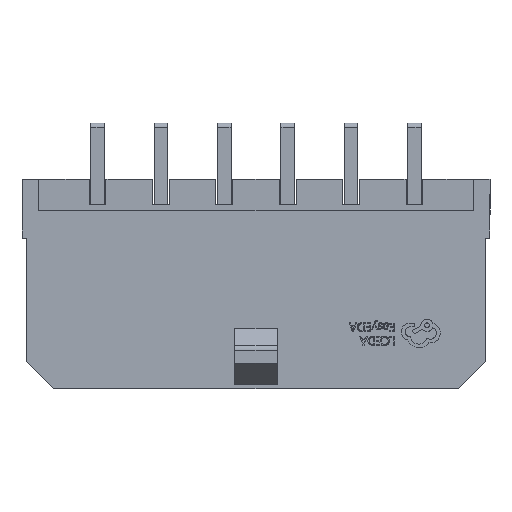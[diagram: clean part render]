
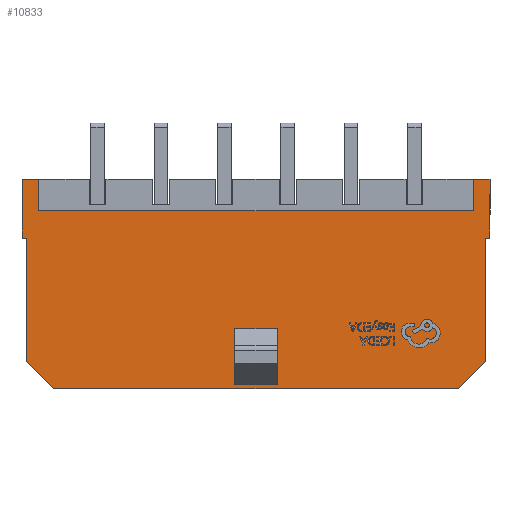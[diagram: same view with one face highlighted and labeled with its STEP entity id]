
A CAD part, top view. The second image highlights one B-rep face of the part: STEP entity #10833.
In plain terms, the highlighted planar face has unit normal (0, 0, 1).
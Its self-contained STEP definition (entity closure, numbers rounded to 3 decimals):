
#43 = CARTESIAN_POINT ( 'NONE',  ( -11.075, -0.84, 7.37 ) ) ;
#118 = EDGE_CURVE ( 'NONE', #6407, #675, #26652, .T. ) ;
#176 = ORIENTED_EDGE ( 'NONE', *, *, #29649, .T. ) ;
#324 = DIRECTION ( 'NONE',  ( 0., -1., 0. ) ) ;
#618 = VERTEX_POINT ( 'NONE', #10293 ) ;
#675 = VERTEX_POINT ( 'NONE', #15475 ) ;
#1292 = VERTEX_POINT ( 'NONE', #12480 ) ;
#1335 = DIRECTION ( 'NONE',  ( -0.707, 0.707, 0. ) ) ;
#1980 = CARTESIAN_POINT ( 'NONE',  ( -10.875, -3.626, 7.37 ) ) ;
#2347 = VECTOR ( 'NONE', #14735, 1000. ) ;
#2376 = CARTESIAN_POINT ( 'NONE',  ( 11.075, -3.626, 7.37 ) ) ;
#2509 = ORIENTED_EDGE ( 'NONE', *, *, #5179, .T. ) ;
#2774 = VECTOR ( 'NONE', #28799, 1000. ) ;
#3605 = LINE ( 'NONE', #19732, #23234 ) ;
#3717 = ORIENTED_EDGE ( 'NONE', *, *, #29917, .F. ) ;
#4139 = VECTOR ( 'NONE', #5601, 1000. ) ;
#4153 = ORIENTED_EDGE ( 'NONE', *, *, #118, .T. ) ;
#4286 = VECTOR ( 'NONE', #7915, 1000. ) ;
#4304 = CARTESIAN_POINT ( 'NONE',  ( 10.275, -0.84, 7.37 ) ) ;
#4341 = VERTEX_POINT ( 'NONE', #28847 ) ;
#4480 = EDGE_CURVE ( 'NONE', #6134, #24071, #20135, .T. ) ;
#4513 = VERTEX_POINT ( 'NONE', #29437 ) ;
#4612 = ORIENTED_EDGE ( 'NONE', *, *, #4480, .F. ) ;
#4647 = DIRECTION ( 'NONE',  ( 0., 0., 1. ) ) ;
#5179 = EDGE_CURVE ( 'NONE', #16815, #1292, #28009, .T. ) ;
#5397 = VERTEX_POINT ( 'NONE', #27819 ) ;
#5531 = CARTESIAN_POINT ( 'NONE',  ( 10.275, -0.84, 7.37 ) ) ;
#5601 = DIRECTION ( 'NONE',  ( -1., 0., 0. ) ) ;
#5656 = ORIENTED_EDGE ( 'NONE', *, *, #21521, .F. ) ;
#5662 = ORIENTED_EDGE ( 'NONE', *, *, #16646, .F. ) ;
#5806 = DIRECTION ( 'NONE',  ( 1., 0., 0. ) ) ;
#5871 = EDGE_CURVE ( 'NONE', #16815, #11512, #21002, .T. ) ;
#6060 = CARTESIAN_POINT ( 'NONE',  ( -11.075, -0.84, 7.37 ) ) ;
#6134 = VERTEX_POINT ( 'NONE', #1980 ) ;
#6407 = VERTEX_POINT ( 'NONE', #16713 ) ;
#7112 = ORIENTED_EDGE ( 'NONE', *, *, #18528, .F. ) ;
#7143 = DIRECTION ( 'NONE',  ( 0., 1., 0. ) ) ;
#7394 = EDGE_CURVE ( 'NONE', #5397, #618, #11208, .T. ) ;
#7426 = CARTESIAN_POINT ( 'NONE',  ( 1., -10.571, 7.37 ) ) ;
#7440 = CARTESIAN_POINT ( 'NONE',  ( -1., -10.571, 7.37 ) ) ;
#7441 = LINE ( 'NONE', #21001, #22844 ) ;
#7915 = DIRECTION ( 'NONE',  ( -1., 0., 0. ) ) ;
#8220 = ORIENTED_EDGE ( 'NONE', *, *, #5871, .F. ) ;
#8343 = DIRECTION ( 'NONE',  ( 0., 1., 0. ) ) ;
#9412 = DIRECTION ( 'NONE',  ( 0., -1., 0. ) ) ;
#9457 = VECTOR ( 'NONE', #324, 1000. ) ;
#9570 = CARTESIAN_POINT ( 'NONE',  ( 10.875, -3.626, 7.37 ) ) ;
#10072 = ORIENTED_EDGE ( 'NONE', *, *, #26714, .T. ) ;
#10293 = CARTESIAN_POINT ( 'NONE',  ( 10.275, -2.34, 7.37 ) ) ;
#10310 = LINE ( 'NONE', #6060, #4139 ) ;
#10436 = CARTESIAN_POINT ( 'NONE',  ( -10.875, -9.45, 7.37 ) ) ;
#10755 = DIRECTION ( 'NONE',  ( 0., -1., 0. ) ) ;
#10833 = ADVANCED_FACE ( 'NONE', ( #18518, #27783 ), #16355, .T. ) ;
#11078 = LINE ( 'NONE', #18255, #16826 ) ;
#11208 = LINE ( 'NONE', #20500, #19566 ) ;
#11511 = DIRECTION ( 'NONE',  ( 1., 0., 0. ) ) ;
#11512 = VERTEX_POINT ( 'NONE', #17318 ) ;
#11534 = VECTOR ( 'NONE', #8343, 1000. ) ;
#11569 = VERTEX_POINT ( 'NONE', #26284 ) ;
#11654 = ORIENTED_EDGE ( 'NONE', *, *, #7394, .F. ) ;
#11796 = VECTOR ( 'NONE', #7143, 1000. ) ;
#12152 = ORIENTED_EDGE ( 'NONE', *, *, #17309, .F. ) ;
#12480 = CARTESIAN_POINT ( 'NONE',  ( 11.075, -0.84, 7.37 ) ) ;
#12614 = VERTEX_POINT ( 'NONE', #14315 ) ;
#12769 = EDGE_CURVE ( 'NONE', #12614, #6134, #29227, .T. ) ;
#13619 = CARTESIAN_POINT ( 'NONE',  ( 0., 0., 7.37 ) ) ;
#13717 = ORIENTED_EDGE ( 'NONE', *, *, #27548, .T. ) ;
#14315 = CARTESIAN_POINT ( 'NONE',  ( -10.875, -9.45, 7.37 ) ) ;
#14735 = DIRECTION ( 'NONE',  ( 1., 0., 0. ) ) ;
#14802 = DIRECTION ( 'NONE',  ( 0., 1., 0. ) ) ;
#14823 = EDGE_CURVE ( 'NONE', #4341, #5397, #7441, .T. ) ;
#15475 = CARTESIAN_POINT ( 'NONE',  ( 1., -7.912, 7.37 ) ) ;
#16006 = VECTOR ( 'NONE', #16747, 1000. ) ;
#16355 = PLANE ( 'NONE',  #27333 ) ;
#16426 = DIRECTION ( 'NONE',  ( 0., -1., 0. ) ) ;
#16646 = EDGE_CURVE ( 'NONE', #21940, #12614, #28734, .T. ) ;
#16713 = CARTESIAN_POINT ( 'NONE',  ( -1., -7.912, 7.37 ) ) ;
#16747 = DIRECTION ( 'NONE',  ( -1., 0., 0. ) ) ;
#16815 = VERTEX_POINT ( 'NONE', #2376 ) ;
#16826 = VECTOR ( 'NONE', #11511, 1000. ) ;
#17027 = LINE ( 'NONE', #26310, #2347 ) ;
#17212 = LINE ( 'NONE', #29389, #4286 ) ;
#17309 = EDGE_CURVE ( 'NONE', #11512, #4513, #28165, .T. ) ;
#17318 = CARTESIAN_POINT ( 'NONE',  ( 10.875, -3.626, 7.37 ) ) ;
#17340 = ORIENTED_EDGE ( 'NONE', *, *, #23784, .T. ) ;
#17500 = CARTESIAN_POINT ( 'NONE',  ( -10.875, -3.626, 7.37 ) ) ;
#17705 = CARTESIAN_POINT ( 'NONE',  ( -11.075, -3.626, 7.37 ) ) ;
#17750 = VERTEX_POINT ( 'NONE', #4304 ) ;
#17820 = VECTOR ( 'NONE', #14802, 1000. ) ;
#17874 = DIRECTION ( 'NONE',  ( -1., 0., 0. ) ) ;
#18041 = VERTEX_POINT ( 'NONE', #7440 ) ;
#18144 = ORIENTED_EDGE ( 'NONE', *, *, #12769, .F. ) ;
#18255 = CARTESIAN_POINT ( 'NONE',  ( -1., -10.571, 7.37 ) ) ;
#18406 = ORIENTED_EDGE ( 'NONE', *, *, #14823, .F. ) ;
#18518 = FACE_OUTER_BOUND ( 'NONE', #22496, .T. ) ;
#18528 = EDGE_CURVE ( 'NONE', #6407, #18041, #3605, .T. ) ;
#18712 = CARTESIAN_POINT ( 'NONE',  ( 1., -7.912, 7.37 ) ) ;
#18822 = VERTEX_POINT ( 'NONE', #7426 ) ;
#19566 = VECTOR ( 'NONE', #29784, 1000. ) ;
#19732 = CARTESIAN_POINT ( 'NONE',  ( -1., -7.912, 7.37 ) ) ;
#19803 = CARTESIAN_POINT ( 'NONE',  ( -1., -7.912, 7.37 ) ) ;
#19933 = EDGE_LOOP ( 'NONE', ( #3717, #7112, #4153, #10072 ) ) ;
#20135 = LINE ( 'NONE', #17705, #22055 ) ;
#20500 = CARTESIAN_POINT ( 'NONE',  ( -10.275, -2.34, 7.37 ) ) ;
#20861 = DIRECTION ( 'NONE',  ( 0., -1., 0. ) ) ;
#21001 = CARTESIAN_POINT ( 'NONE',  ( -10.275, -0.84, 7.37 ) ) ;
#21002 = LINE ( 'NONE', #27705, #16006 ) ;
#21119 = LINE ( 'NONE', #18712, #9457 ) ;
#21346 = CARTESIAN_POINT ( 'NONE',  ( -11.075, -3.626, 7.37 ) ) ;
#21418 = ORIENTED_EDGE ( 'NONE', *, *, #21707, .F. ) ;
#21521 = EDGE_CURVE ( 'NONE', #618, #17750, #26375, .T. ) ;
#21707 = EDGE_CURVE ( 'NONE', #4513, #11569, #24346, .T. ) ;
#21926 = CARTESIAN_POINT ( 'NONE',  ( 10.875, -9.45, 7.37 ) ) ;
#21940 = VERTEX_POINT ( 'NONE', #22814 ) ;
#22055 = VECTOR ( 'NONE', #17874, 1000. ) ;
#22212 = ORIENTED_EDGE ( 'NONE', *, *, #22568, .T. ) ;
#22496 = EDGE_LOOP ( 'NONE', ( #18406, #13717, #176, #4612, #18144, #5662, #17340, #21418, #12152, #8220, #2509, #22212, #5656, #11654 ) ) ;
#22568 = EDGE_CURVE ( 'NONE', #1292, #17750, #17212, .T. ) ;
#22814 = CARTESIAN_POINT ( 'NONE',  ( -9.575, -10.75, 7.37 ) ) ;
#22844 = VECTOR ( 'NONE', #20861, 1000. ) ;
#23234 = VECTOR ( 'NONE', #10755, 1000. ) ;
#23261 = VECTOR ( 'NONE', #5806, 1000. ) ;
#23643 = VECTOR ( 'NONE', #9412, 1000. ) ;
#23784 = EDGE_CURVE ( 'NONE', #21940, #11569, #17027, .T. ) ;
#24071 = VERTEX_POINT ( 'NONE', #21346 ) ;
#24080 = VECTOR ( 'NONE', #1335, 1000. ) ;
#24346 = LINE ( 'NONE', #21926, #2774 ) ;
#25657 = DIRECTION ( 'NONE',  ( 1., 0., 0. ) ) ;
#25737 = CARTESIAN_POINT ( 'NONE',  ( -11.075, -0.84, 7.37 ) ) ;
#26284 = CARTESIAN_POINT ( 'NONE',  ( 9.575, -10.75, 7.37 ) ) ;
#26310 = CARTESIAN_POINT ( 'NONE',  ( -11.075, -10.75, 7.37 ) ) ;
#26375 = LINE ( 'NONE', #5531, #17820 ) ;
#26530 = VECTOR ( 'NONE', #16426, 1000. ) ;
#26652 = LINE ( 'NONE', #19803, #23261 ) ;
#26714 = EDGE_CURVE ( 'NONE', #675, #18822, #21119, .T. ) ;
#27241 = VERTEX_POINT ( 'NONE', #25737 ) ;
#27333 = AXIS2_PLACEMENT_3D ( 'NONE', #13619, #4647, #25657 ) ;
#27548 = EDGE_CURVE ( 'NONE', #4341, #27241, #10310, .T. ) ;
#27555 = CARTESIAN_POINT ( 'NONE',  ( 11.075, -0.84, 7.37 ) ) ;
#27705 = CARTESIAN_POINT ( 'NONE',  ( 11.075, -3.626, 7.37 ) ) ;
#27783 = FACE_BOUND ( 'NONE', #19933, .T. ) ;
#27819 = CARTESIAN_POINT ( 'NONE',  ( -10.275, -2.34, 7.37 ) ) ;
#28000 = LINE ( 'NONE', #43, #26530 ) ;
#28009 = LINE ( 'NONE', #27555, #11796 ) ;
#28165 = LINE ( 'NONE', #9570, #23643 ) ;
#28734 = LINE ( 'NONE', #10436, #24080 ) ;
#28799 = DIRECTION ( 'NONE',  ( -0.707, -0.707, 0. ) ) ;
#28847 = CARTESIAN_POINT ( 'NONE',  ( -10.275, -0.84, 7.37 ) ) ;
#29227 = LINE ( 'NONE', #17500, #11534 ) ;
#29389 = CARTESIAN_POINT ( 'NONE',  ( -11.075, -0.84, 7.37 ) ) ;
#29437 = CARTESIAN_POINT ( 'NONE',  ( 10.875, -9.45, 7.37 ) ) ;
#29649 = EDGE_CURVE ( 'NONE', #27241, #24071, #28000, .T. ) ;
#29784 = DIRECTION ( 'NONE',  ( 1., 0., 0. ) ) ;
#29917 = EDGE_CURVE ( 'NONE', #18041, #18822, #11078, .T. ) ;
